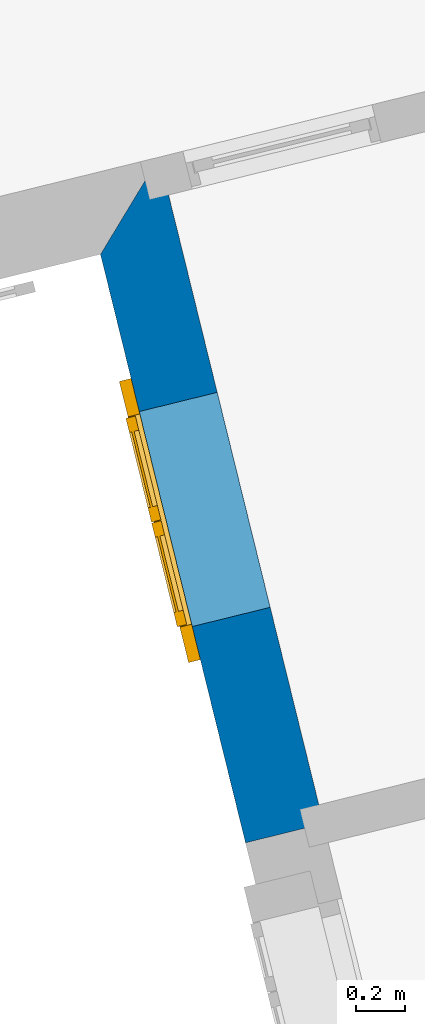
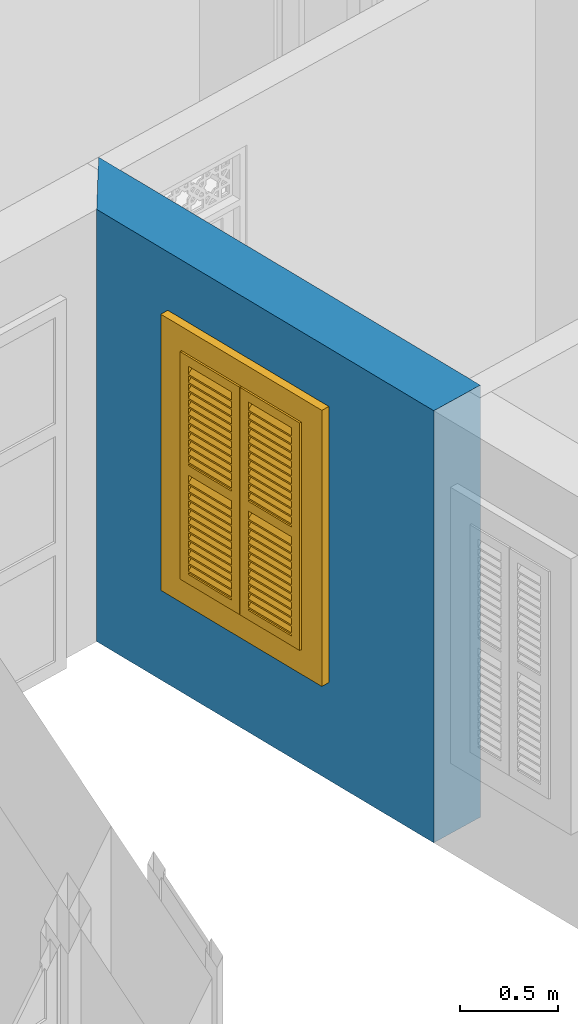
# One storey, part 8 of 12: 1 wall, 1 window, 1 opening.
"""IFC4 building model written with IfcOpenShell, lengths in metres."""

from ifc_helpers import new_model, si_unit, frame, origin, origin_with_axes, place, context, subcontext, project, spatial, polyline, outline, extrude, faceted_brep, source, transform, mapped, material, layer, layer_set, layer_usage, type_object, type_shapes, element, fill, save


model = new_model("IFC4")

# Units and contexts
model_context = context("Model", 3, world=origin_with_axes())
body_context = subcontext(model_context, "Body", "Model", "MODEL_VIEW")
ifc_project = project(units=[si_unit("PLANEANGLEUNIT", "RADIAN"), si_unit("MASSUNIT", "GRAM", prefix="KILO"), si_unit("FORCEUNIT", "NEWTON", prefix="KILO"), si_unit("LENGTHUNIT", "METRE"), si_unit("AREAUNIT", "SQUARE_METRE"), si_unit("VOLUMEUNIT", "CUBIC_METRE")], contexts=[model_context, model_context])

# Site, building, storey
site_placement = place(None, origin_with_axes())
site = spatial("IfcSite", under=ifc_project, at=site_placement, Name="Site plot-1", CompositionType="ELEMENT")
building_placement = place(None, origin_with_axes())
building = spatial("IfcBuilding", under=site, at=building_placement, Name="Building plot-1", CompositionType="ELEMENT")
storey_placement = place(None, origin_with_axes())
storey = spatial("IfcBuildingStorey", under=building, at=storey_placement, Name="plot-1 0", CompositionType="ELEMENT", Elevation=0.0)

# Wall, opening, window
ifc_material = material(Name="Masonry")
ifc_layer = layer(ifc_material, 0.33, ventilated=False)
ifc_layer_set = layer_set([ifc_layer], Name="exterior_0.08_0.25")
ifc_layer_usage = layer_usage(ifc_layer_set, "AXIS2", "POSITIVE", -0.25)
wall_type = type_object("IfcWallType", Name="exterior_0.08_0.25", PredefinedType="SOLIDWALL", material=ifc_layer_set)
wall_placement = place(storey_placement, frame((1.84232512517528, 23.8951878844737, 0.0), z_axis=(0.0, 0.0, 1.0), x_axis=(0.239234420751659, -0.970961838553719, 0.0)))
wall = element("IfcWall", 1, at=wall_placement, inside=storey, type_object=wall_type, material=ifc_layer_usage, Name="exterior", context=body_context, shape_type="SweptSolid", body=[
    extrude(outline(polyline([(-0.0799999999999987, 0.08), (0.250000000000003, -0.250000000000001), (2.74089482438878, -0.25), (2.74089482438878, 0.0800000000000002), (-0.0799999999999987, 0.08)])), origin_with_axes(), (0.0, 0.0, 1.0), 2.7),
])
opening_placement = place(wall_placement, frame((0.915447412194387, 0.0, 0.75)))
opening = element("IfcOpeningElement", 2, at=opening_placement, cuts=wall, Name="My Opening", ObjectType="Opening", context=body_context, shape_type="SweptSolid", body=[
    extrude(outline(polyline([(0.0, -0.27), (0.910000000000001, -0.27), (0.910000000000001, 1.1), (1.11022302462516e-16, 1.1), (0.0, -0.27)])), origin_with_axes(), (0.0, 0.0, 1.0), 1.445),
])
window_type = type_object("IfcWindowType", Name="shuttered_shorter", PartitioningType="DOUBLE_PANEL_HORIZONTAL", PredefinedType="NOTDEFINED")
shared_shape = source(origin(), body_context, "Body", "Brep", [
    faceted_brep([(0.393, 0.0, 0.622), (0.074, 0.0, 0.622), (0.074, 0.0, 0.632), (0.393, 0.0, 0.632), (0.074, -0.04, 0.592), (0.393, -0.04, 0.592), (0.393, -0.04, 0.582), (0.074, -0.04, 0.582), (0.517, 0.0, 0.682), (0.836, 0.0, 0.682), (0.836, 0.0, 0.672), (0.517, 0.0, 0.672), (0.517, -0.04, 0.642), (0.836, -0.04, 0.642), (0.836, -0.04, 0.632), (0.517, -0.04, 0.632), (0.517, 0.0, 0.632), (0.836, 0.0, 0.632), (0.836, 0.0, 0.622), (0.517, 0.0, 0.622), (0.517, -0.04, 0.592), (0.836, -0.04, 0.592), (0.836, -0.04, 0.582), (0.517, -0.04, 0.582), (0.517, 0.0, 0.232), (0.836, 0.0, 0.232), (0.836, 0.0, 0.222), (0.517, 0.0, 0.222), (0.517, -0.04, 0.192), (0.836, -0.04, 0.192), (0.836, -0.04, 0.182), (0.517, -0.04, 0.182), (0.517, 0.0, 0.532), (0.836, 0.0, 0.532), (0.836, 0.0, 0.522), (0.517, 0.0, 0.522), (0.517, -0.04, 0.492), (0.836, -0.04, 0.492), (0.836, -0.04, 0.482), (0.517, -0.04, 0.482), (0.517, 0.0, 0.482), (0.836, 0.0, 0.482), (0.836, 0.0, 0.472), (0.517, 0.0, 0.472), (0.517, -0.04, 0.442), (0.836, -0.04, 0.442), (0.836, -0.04, 0.432), (0.517, -0.04, 0.432), (0.517, 0.0, 0.582), (0.836, 0.0, 0.582), (0.836, 0.0, 0.572), (0.517, 0.0, 0.572), (0.517, -0.04, 0.542), (0.836, -0.04, 0.542), (0.836, -0.04, 0.532), (0.517, -0.04, 0.532), (0.517, 0.0, 0.182), (0.836, 0.0, 0.182), (0.836, 0.0, 0.172), (0.517, 0.0, 0.172), (0.517, -0.04, 0.142), (0.836, -0.04, 0.142), (0.836, -0.04, 0.132), (0.517, -0.04, 0.132), (0.517, 0.0, 0.382), (0.836, 0.0, 0.382), (0.836, 0.0, 0.372), (0.517, 0.0, 0.372), (0.517, -0.04, 0.342), (0.836, -0.04, 0.342), (0.836, -0.04, 0.332), (0.517, -0.04, 0.332), (0.517, 0.0, 0.432), (0.836, 0.0, 0.432), (0.836, 0.0, 0.422), (0.517, 0.0, 0.422), (0.517, -0.04, 0.392), (0.836, -0.04, 0.392), (0.836, -0.04, 0.382), (0.517, -0.04, 0.382), (0.517, 0.0, 0.132), (0.836, 0.0, 0.132), (0.836, 0.0, 0.122), (0.517, 0.0, 0.122), (0.517, -0.04, 0.092), (0.836, -0.04, 0.092), (0.836, -0.04, 0.082), (0.517, -0.04, 0.082), (0.517, 0.0, 0.282), (0.836, 0.0, 0.282), (0.836, 0.0, 0.272), (0.517, 0.0, 0.272), (0.517, -0.04, 0.242), (0.836, -0.04, 0.242), (0.836, -0.04, 0.232), (0.517, -0.04, 0.232), (0.517, 0.0, 0.332), (0.836, 0.0, 0.332), (0.836, 0.0, 0.322), (0.517, 0.0, 0.322), (0.517, -0.04, 0.292), (0.836, -0.04, 0.292), (0.836, -0.04, 0.282), (0.517, -0.04, 0.282), (0.517, 0.0, 1.362667), (0.836, 0.0, 1.362667), (0.836, 0.0, 1.352667), (0.517, 0.0, 1.352667), (0.517, -0.04, 1.322667), (0.836, -0.04, 1.322667), (0.836, -0.04, 1.312667), (0.517, -0.04, 1.312667), (0.517, 0.0, 1.312667), (0.836, 0.0, 1.312667), (0.836, 0.0, 1.302667), (0.517, 0.0, 1.302667), (0.517, -0.04, 1.272667), (0.836, -0.04, 1.272667), (0.836, -0.04, 1.262667), (0.517, -0.04, 1.262667), (0.517, 0.0, 0.912667), (0.836, 0.0, 0.912667), (0.836, 0.0, 0.902667), (0.517, 0.0, 0.902667), (0.517, -0.04, 0.872667), (0.836, -0.04, 0.872667), (0.836, -0.04, 0.862667), (0.517, -0.04, 0.862667), (0.517, 0.0, 1.212667), (0.836, 0.0, 1.212667), (0.836, 0.0, 1.202667), (0.517, 0.0, 1.202667), (0.517, -0.04, 1.172667), (0.836, -0.04, 1.172667), (0.836, -0.04, 1.162667), (0.517, -0.04, 1.162667), (0.517, 0.0, 1.162667), (0.836, 0.0, 1.162667), (0.836, 0.0, 1.152667), (0.517, 0.0, 1.152667), (0.517, -0.04, 1.122667), (0.836, -0.04, 1.122667), (0.836, -0.04, 1.112667), (0.517, -0.04, 1.112667), (0.517, 0.0, 1.262667), (0.836, 0.0, 1.262667), (0.836, 0.0, 1.252667), (0.517, 0.0, 1.252667), (0.517, -0.04, 1.222667), (0.836, -0.04, 1.222667), (0.836, -0.04, 1.212667), (0.517, -0.04, 1.212667), (0.517, 0.0, 0.862667), (0.836, 0.0, 0.862667), (0.836, 0.0, 0.852667), (0.517, 0.0, 0.852667), (0.517, -0.04, 0.822667), (0.836, -0.04, 0.822667), (0.836, -0.04, 0.812667), (0.517, -0.04, 0.812667), (0.517, 0.0, 1.062667), (0.836, 0.0, 1.062667), (0.836, 0.0, 1.052667), (0.517, 0.0, 1.052667), (0.517, -0.04, 1.022667), (0.836, -0.04, 1.022667), (0.836, -0.04, 1.012667), (0.517, -0.04, 1.012667), (0.517, 0.0, 1.112667), (0.836, 0.0, 1.112667), (0.836, 0.0, 1.102667), (0.517, 0.0, 1.102667), (0.517, -0.04, 1.072667), (0.836, -0.04, 1.072667), (0.836, -0.04, 1.062667), (0.517, -0.04, 1.062667), (0.517, 0.0, 0.812667), (0.836, 0.0, 0.812667), (0.836, 0.0, 0.802667), (0.517, 0.0, 0.802667), (0.517, -0.04, 0.772667), (0.836, -0.04, 0.772667), (0.836, -0.04, 0.762667), (0.517, -0.04, 0.762667), (0.517, 0.0, 0.962667), (0.836, 0.0, 0.962667), (0.836, 0.0, 0.952667), (0.517, 0.0, 0.952667), (0.517, -0.04, 0.922667), (0.836, -0.04, 0.922667), (0.836, -0.04, 0.912667), (0.517, -0.04, 0.912667), (0.517, 0.0, 1.012667), (0.836, 0.0, 1.012667), (0.836, 0.0, 1.002667), (0.517, 0.0, 1.002667), (0.517, -0.04, 0.972667), (0.836, -0.04, 0.972667), (0.836, -0.04, 0.962667), (0.517, -0.04, 0.962667), (0.074, 0.0, 0.682), (0.393, 0.0, 0.682), (0.393, 0.0, 0.672), (0.074, 0.0, 0.672), (0.074, -0.04, 0.642), (0.393, -0.04, 0.642), (0.393, -0.04, 0.632), (0.074, -0.04, 0.632), (0.074, 0.0, 0.232), (0.393, 0.0, 0.232), (0.393, 0.0, 0.222), (0.074, 0.0, 0.222), (0.074, -0.04, 0.192), (0.393, -0.04, 0.192), (0.393, -0.04, 0.182), (0.074, -0.04, 0.182), (0.074, 0.0, 0.532), (0.393, 0.0, 0.532), (0.393, 0.0, 0.522), (0.074, 0.0, 0.522), (0.074, -0.04, 0.492), (0.393, -0.04, 0.492), (0.393, -0.04, 0.482), (0.074, -0.04, 0.482), (0.074, 0.0, 0.482), (0.393, 0.0, 0.482), (0.393, 0.0, 0.472), (0.074, 0.0, 0.472), (0.074, -0.04, 0.442), (0.393, -0.04, 0.442), (0.393, -0.04, 0.432), (0.074, -0.04, 0.432), (0.074, 0.0, 0.582), (0.393, 0.0, 0.582), (0.393, 0.0, 0.572), (0.074, 0.0, 0.572), (0.074, -0.04, 0.542), (0.393, -0.04, 0.542), (0.393, -0.04, 0.532), (0.074, -0.04, 0.532), (0.074, 0.0, 0.182), (0.393, 0.0, 0.182), (0.393, 0.0, 0.172), (0.074, 0.0, 0.172), (0.074, -0.04, 0.142), (0.393, -0.04, 0.142), (0.393, -0.04, 0.132), (0.074, -0.04, 0.132), (0.074, 0.0, 0.382), (0.393, 0.0, 0.382), (0.393, 0.0, 0.372), (0.074, 0.0, 0.372), (0.074, -0.04, 0.342), (0.393, -0.04, 0.342), (0.393, -0.04, 0.332), (0.074, -0.04, 0.332), (0.074, 0.0, 0.432), (0.393, 0.0, 0.432), (0.393, 0.0, 0.422), (0.074, 0.0, 0.422), (0.074, -0.04, 0.392), (0.393, -0.04, 0.392), (0.393, -0.04, 0.382), (0.074, -0.04, 0.382), (0.074, 0.0, 0.132), (0.393, 0.0, 0.132), (0.393, 0.0, 0.122), (0.074, 0.0, 0.122), (0.074, -0.04, 0.092), (0.393, -0.04, 0.092), (0.393, -0.04, 0.082), (0.074, -0.04, 0.082), (0.074, 0.0, 0.282), (0.393, 0.0, 0.282), (0.393, 0.0, 0.272), (0.074, 0.0, 0.272), (0.074, -0.04, 0.242), (0.393, -0.04, 0.242), (0.393, -0.04, 0.232), (0.074, -0.04, 0.232), (0.074, 0.0, 0.332), (0.393, 0.0, 0.332), (0.393, 0.0, 0.322), (0.074, 0.0, 0.322), (0.074, -0.04, 0.292), (0.393, -0.04, 0.292), (0.393, -0.04, 0.282), (0.074, -0.04, 0.282), (0.074, 0.0, 1.362667), (0.393, 0.0, 1.362667), (0.393, 0.0, 1.352667), (0.074, 0.0, 1.352667), (0.074, -0.04, 1.322667), (0.393, -0.04, 1.322667), (0.393, -0.04, 1.312667), (0.074, -0.04, 1.312667), (0.074, 0.0, 1.312667), (0.393, 0.0, 1.312667), (0.393, 0.0, 1.302667), (0.074, 0.0, 1.302667), (0.074, -0.04, 1.272667), (0.393, -0.04, 1.272667), (0.393, -0.04, 1.262667), (0.074, -0.04, 1.262667), (0.074, 0.0, 0.912667), (0.393, 0.0, 0.912667), (0.393, 0.0, 0.902667), (0.074, 0.0, 0.902667), (0.074, -0.04, 0.872667), (0.393, -0.04, 0.872667), (0.393, -0.04, 0.862667), (0.074, -0.04, 0.862667), (0.074, 0.0, 1.212667), (0.393, 0.0, 1.212667), (0.393, 0.0, 1.202667), (0.074, 0.0, 1.202667), (0.074, -0.04, 1.172667), (0.393, -0.04, 1.172667), (0.393, -0.04, 1.162667), (0.074, -0.04, 1.162667), (0.074, 0.0, 1.162667), (0.393, 0.0, 1.162667), (0.393, 0.0, 1.152667), (0.074, 0.0, 1.152667), (0.074, -0.04, 1.122667), (0.393, -0.04, 1.122667), (0.393, -0.04, 1.112667), (0.074, -0.04, 1.112667), (0.074, 0.0, 1.262667), (0.393, 0.0, 1.262667), (0.393, 0.0, 1.252667), (0.074, 0.0, 1.252667), (0.074, -0.04, 1.222667), (0.393, -0.04, 1.222667), (0.393, -0.04, 1.212667), (0.074, -0.04, 1.212667), (0.074, 0.0, 0.862667), (0.393, 0.0, 0.862667), (0.393, 0.0, 0.852667), (0.074, 0.0, 0.852667), (0.074, -0.04, 0.822667), (0.393, -0.04, 0.822667), (0.393, -0.04, 0.812667), (0.074, -0.04, 0.812667), (0.074, 0.0, 1.062667), (0.393, 0.0, 1.062667), (0.393, 0.0, 1.052667), (0.074, 0.0, 1.052667), (0.074, -0.04, 1.022667), (0.393, -0.04, 1.022667), (0.393, -0.04, 1.012667), (0.074, -0.04, 1.012667), (0.074, 0.0, 1.112667), (0.393, 0.0, 1.112667), (0.393, 0.0, 1.102667), (0.074, 0.0, 1.102667), (0.074, -0.04, 1.072667), (0.393, -0.04, 1.072667), (0.393, -0.04, 1.062667), (0.074, -0.04, 1.062667), (0.074, 0.0, 0.812667), (0.393, 0.0, 0.812667), (0.393, 0.0, 0.802667), (0.074, 0.0, 0.802667), (0.074, -0.04, 0.772667), (0.393, -0.04, 0.772667), (0.393, -0.04, 0.762667), (0.074, -0.04, 0.762667), (0.074, 0.0, 0.962667), (0.393, 0.0, 0.962667), (0.393, 0.0, 0.952667), (0.074, 0.0, 0.952667), (0.074, -0.04, 0.922667), (0.393, -0.04, 0.922667), (0.393, -0.04, 0.912667), (0.074, -0.04, 0.912667), (0.074, 0.0, 1.012667), (0.393, 0.0, 1.012667), (0.393, 0.0, 1.002667), (0.074, 0.0, 1.002667), (0.074, -0.04, 0.972667), (0.393, -0.04, 0.972667), (0.393, -0.04, 0.962667), (0.074, -0.04, 0.962667), (0.517, -0.04, 0.072), (0.457, -0.04, 0.012), (0.896, -0.04, 0.012), (0.836, -0.04, 0.072), (0.457, -0.04, 0.692667), (0.517, -0.04, 0.692667), (0.457, 0.0, 0.012), (0.896, 0.0, 0.012), (0.836, -0.04, 0.692667), (0.896, -0.04, 0.692667), (0.836, 0.0, 0.072), (0.517, 0.0, 0.072), (0.457, 0.0, 0.692667), (0.517, 0.0, 0.692667), (0.517, -0.04, 0.752666), (0.457, -0.04, 0.752666), (0.896, 0.0, 0.692667), (0.836, 0.0, 0.692667), (0.836, -0.04, 0.752666), (0.896, -0.04, 0.752666), (0.457, 0.0, 0.752666), (0.457, -0.04, 1.433333), (0.517, -0.04, 1.373333), (0.896, 0.0, 0.752666), (0.836, -0.04, 1.373333), (0.896, -0.04, 1.433333), (0.457, 0.0, 1.433333), (0.517, 0.0, 0.752666), (0.836, 0.0, 0.752666), (0.517, 0.0, 1.373333), (0.896, 0.0, 1.433333), (0.836, 0.0, 1.373333), (0.074, -0.04, 0.072), (0.014, -0.04, 0.012), (0.453, -0.04, 0.012), (0.393, -0.04, 0.072), (0.014, -0.04, 0.692667), (0.074, -0.04, 0.692667), (0.014, 0.0, 0.012), (0.453, 0.0, 0.012), (0.393, -0.04, 0.692667), (0.453, -0.04, 0.692667), (0.393, 0.0, 0.072), (0.074, 0.0, 0.072), (0.014, 0.0, 0.692667), (0.074, 0.0, 0.692667), (0.074, -0.04, 0.752666), (0.014, -0.04, 0.752666), (0.453, 0.0, 0.692667), (0.393, 0.0, 0.692667), (0.393, -0.04, 0.752666), (0.453, -0.04, 0.752666), (0.014, 0.0, 0.752666), (0.014, -0.04, 1.433333), (0.074, -0.04, 1.373333), (0.453, 0.0, 0.752666), (0.393, -0.04, 1.373333), (0.453, -0.04, 1.433333), (0.014, 0.0, 1.433333), (0.074, 0.0, 0.752666), (0.393, 0.0, 0.752666), (0.074, 0.0, 1.373333), (0.453, 0.0, 1.433333), (0.393, 0.0, 1.373333), (0.0, 0.33, 1.445), (0.91, 0.33, 1.445), (0.85, 0.33, 1.385), (0.06, 0.33, 1.385), (0.91, 0.25, 1.445), (0.0, 0.25, 1.445), (0.91, 0.25, 1.445), (0.85, 0.33, 0.06), (0.91, 0.33, 0.0), (0.85, 0.25, 1.385), (0.06, 0.25, 1.385), (0.0, 0.33, 0.0), (0.06, 0.33, 0.06), (0.0, 0.25, 0.0), (0.91, 0.25, 0.0), (0.85, 0.25, 0.06), (0.06, 0.25, 0.06), (1.05, 0.25, 1.585), (-0.14, 0.25, 1.585), (-0.14, -0.03, 1.585), (1.05, -0.03, 1.585), (0.9, -0.03, 1.435), (0.01, -0.03, 1.435), (0.01, 0.25, 1.435), (0.9, 0.25, 1.435), (0.9, 0.25, 0.01), (0.9, -0.03, 0.01), (1.05, -0.03, -0.14), (1.05, 0.25, -0.14), (0.01, -0.03, 0.01), (0.01, 0.25, 0.01), (-0.14, -0.03, -0.14), (-0.14, 0.25, -0.14)], [[[0, 1, 2, 3]], [[4, 5, 3, 2]], [[5, 6, 0, 3]], [[1, 0, 6, 7]], [[2, 1, 7, 4]], [[5, 4, 7, 6]], [[8, 9, 10, 11]], [[12, 13, 9, 8]], [[13, 14, 10, 9]], [[14, 15, 11, 10]], [[15, 12, 8, 11]], [[13, 12, 15, 14]], [[16, 17, 18, 19]], [[20, 21, 17, 16]], [[21, 22, 18, 17]], [[22, 23, 19, 18]], [[23, 20, 16, 19]], [[21, 20, 23, 22]], [[24, 25, 26, 27]], [[28, 29, 25, 24]], [[29, 30, 26, 25]], [[30, 31, 27, 26]], [[31, 28, 24, 27]], [[29, 28, 31, 30]], [[32, 33, 34, 35]], [[36, 37, 33, 32]], [[37, 38, 34, 33]], [[38, 39, 35, 34]], [[39, 36, 32, 35]], [[37, 36, 39, 38]], [[40, 41, 42, 43]], [[44, 45, 41, 40]], [[45, 46, 42, 41]], [[46, 47, 43, 42]], [[47, 44, 40, 43]], [[45, 44, 47, 46]], [[48, 49, 50, 51]], [[52, 53, 49, 48]], [[53, 54, 50, 49]], [[54, 55, 51, 50]], [[55, 52, 48, 51]], [[53, 52, 55, 54]], [[56, 57, 58, 59]], [[60, 61, 57, 56]], [[61, 62, 58, 57]], [[62, 63, 59, 58]], [[63, 60, 56, 59]], [[61, 60, 63, 62]], [[64, 65, 66, 67]], [[68, 69, 65, 64]], [[69, 70, 66, 65]], [[70, 71, 67, 66]], [[71, 68, 64, 67]], [[69, 68, 71, 70]], [[72, 73, 74, 75]], [[76, 77, 73, 72]], [[77, 78, 74, 73]], [[78, 79, 75, 74]], [[79, 76, 72, 75]], [[77, 76, 79, 78]], [[80, 81, 82, 83]], [[84, 85, 81, 80]], [[85, 86, 82, 81]], [[86, 87, 83, 82]], [[87, 84, 80, 83]], [[85, 84, 87, 86]], [[88, 89, 90, 91]], [[92, 93, 89, 88]], [[93, 94, 90, 89]], [[94, 95, 91, 90]], [[95, 92, 88, 91]], [[93, 92, 95, 94]], [[96, 97, 98, 99]], [[100, 101, 97, 96]], [[101, 102, 98, 97]], [[102, 103, 99, 98]], [[103, 100, 96, 99]], [[101, 100, 103, 102]], [[104, 105, 106, 107]], [[108, 109, 105, 104]], [[109, 110, 106, 105]], [[110, 111, 107, 106]], [[111, 108, 104, 107]], [[109, 108, 111, 110]], [[112, 113, 114, 115]], [[116, 117, 113, 112]], [[117, 118, 114, 113]], [[118, 119, 115, 114]], [[119, 116, 112, 115]], [[117, 116, 119, 118]], [[120, 121, 122, 123]], [[124, 125, 121, 120]], [[125, 126, 122, 121]], [[126, 127, 123, 122]], [[127, 124, 120, 123]], [[125, 124, 127, 126]], [[128, 129, 130, 131]], [[132, 133, 129, 128]], [[133, 134, 130, 129]], [[134, 135, 131, 130]], [[135, 132, 128, 131]], [[133, 132, 135, 134]], [[136, 137, 138, 139]], [[140, 141, 137, 136]], [[141, 142, 138, 137]], [[142, 143, 139, 138]], [[139, 143, 140, 136]], [[141, 140, 143, 142]], [[144, 145, 146, 147]], [[148, 149, 145, 144]], [[149, 150, 146, 145]], [[150, 151, 147, 146]], [[151, 148, 144, 147]], [[149, 148, 151, 150]], [[152, 153, 154, 155]], [[156, 157, 153, 152]], [[157, 158, 154, 153]], [[158, 159, 155, 154]], [[159, 156, 152, 155]], [[157, 156, 159, 158]], [[160, 161, 162, 163]], [[164, 165, 161, 160]], [[165, 166, 162, 161]], [[166, 167, 163, 162]], [[167, 164, 160, 163]], [[165, 164, 167, 166]], [[168, 169, 170, 171]], [[172, 173, 169, 168]], [[173, 174, 170, 169]], [[174, 175, 171, 170]], [[175, 172, 168, 171]], [[173, 172, 175, 174]], [[176, 177, 178, 179]], [[180, 181, 177, 176]], [[181, 182, 178, 177]], [[182, 183, 179, 178]], [[183, 180, 176, 179]], [[181, 180, 183, 182]], [[184, 185, 186, 187]], [[188, 189, 185, 184]], [[189, 190, 186, 185]], [[190, 191, 187, 186]], [[191, 188, 184, 187]], [[189, 188, 191, 190]], [[192, 193, 194, 195]], [[196, 197, 193, 192]], [[197, 198, 194, 193]], [[198, 199, 195, 194]], [[199, 196, 192, 195]], [[197, 196, 199, 198]], [[200, 201, 202, 203]], [[204, 205, 201, 200]], [[205, 206, 202, 201]], [[206, 207, 203, 202]], [[207, 204, 200, 203]], [[205, 204, 207, 206]], [[208, 209, 210, 211]], [[212, 213, 209, 208]], [[213, 214, 210, 209]], [[214, 215, 211, 210]], [[215, 212, 208, 211]], [[213, 212, 215, 214]], [[216, 217, 218, 219]], [[220, 221, 217, 216]], [[221, 222, 218, 217]], [[222, 223, 219, 218]], [[223, 220, 216, 219]], [[221, 220, 223, 222]], [[224, 225, 226, 227]], [[228, 229, 225, 224]], [[229, 230, 226, 225]], [[230, 231, 227, 226]], [[231, 228, 224, 227]], [[229, 228, 231, 230]], [[232, 233, 234, 235]], [[236, 237, 233, 232]], [[237, 238, 234, 233]], [[238, 239, 235, 234]], [[239, 236, 232, 235]], [[237, 236, 239, 238]], [[240, 241, 242, 243]], [[244, 245, 241, 240]], [[245, 246, 242, 241]], [[246, 247, 243, 242]], [[247, 244, 240, 243]], [[245, 244, 247, 246]], [[248, 249, 250, 251]], [[252, 253, 249, 248]], [[253, 254, 250, 249]], [[254, 255, 251, 250]], [[255, 252, 248, 251]], [[253, 252, 255, 254]], [[256, 257, 258, 259]], [[260, 261, 257, 256]], [[261, 262, 258, 257]], [[262, 263, 259, 258]], [[263, 260, 256, 259]], [[261, 260, 263, 262]], [[264, 265, 266, 267]], [[268, 269, 265, 264]], [[269, 270, 266, 265]], [[270, 271, 267, 266]], [[271, 268, 264, 267]], [[269, 268, 271, 270]], [[272, 273, 274, 275]], [[276, 277, 273, 272]], [[277, 278, 274, 273]], [[278, 279, 275, 274]], [[279, 276, 272, 275]], [[277, 276, 279, 278]], [[280, 281, 282, 283]], [[284, 285, 281, 280]], [[285, 286, 282, 281]], [[286, 287, 283, 282]], [[287, 284, 280, 283]], [[285, 284, 287, 286]], [[288, 289, 290, 291]], [[292, 293, 289, 288]], [[293, 294, 290, 289]], [[294, 295, 291, 290]], [[295, 292, 288, 291]], [[293, 292, 295, 294]], [[296, 297, 298, 299]], [[300, 301, 297, 296]], [[301, 302, 298, 297]], [[302, 303, 299, 298]], [[303, 300, 296, 299]], [[301, 300, 303, 302]], [[304, 305, 306, 307]], [[308, 309, 305, 304]], [[309, 310, 306, 305]], [[310, 311, 307, 306]], [[311, 308, 304, 307]], [[309, 308, 311, 310]], [[312, 313, 314, 315]], [[316, 317, 313, 312]], [[317, 318, 314, 313]], [[318, 319, 315, 314]], [[319, 316, 312, 315]], [[317, 316, 319, 318]], [[320, 321, 322, 323]], [[324, 325, 321, 320]], [[325, 326, 322, 321]], [[326, 327, 323, 322]], [[327, 324, 320, 323]], [[325, 324, 327, 326]], [[328, 329, 330, 331]], [[332, 333, 329, 328]], [[333, 334, 330, 329]], [[334, 335, 331, 330]], [[335, 332, 328, 331]], [[333, 332, 335, 334]], [[336, 337, 338, 339]], [[340, 341, 337, 336]], [[341, 342, 338, 337]], [[342, 343, 339, 338]], [[343, 340, 336, 339]], [[341, 340, 343, 342]], [[344, 345, 346, 347]], [[348, 349, 345, 344]], [[349, 350, 346, 345]], [[350, 351, 347, 346]], [[351, 348, 344, 347]], [[349, 348, 351, 350]], [[352, 353, 354, 355]], [[356, 357, 353, 352]], [[357, 358, 354, 353]], [[358, 359, 355, 354]], [[359, 356, 352, 355]], [[357, 356, 359, 358]], [[360, 361, 362, 363]], [[364, 365, 361, 360]], [[365, 366, 362, 361]], [[366, 367, 363, 362]], [[367, 364, 360, 363]], [[365, 364, 367, 366]], [[368, 369, 370, 371]], [[372, 373, 369, 368]], [[373, 374, 370, 369]], [[374, 375, 371, 370]], [[375, 372, 368, 371]], [[373, 372, 375, 374]], [[376, 377, 378, 379]], [[380, 381, 377, 376]], [[381, 382, 378, 377]], [[382, 383, 379, 378]], [[383, 380, 376, 379]], [[381, 380, 383, 382]], [[384, 385, 386, 387]], [[388, 385, 384, 389]], [[390, 391, 386, 385]], [[392, 387, 386, 393]], [[384, 387, 394, 395]], [[390, 385, 388, 396]], [[389, 384, 395, 397]], [[389, 398, 399, 388]], [[390, 395, 394, 391]], [[400, 393, 386, 391]], [[387, 392, 401, 394]], [[402, 392, 393, 403]], [[396, 388, 399, 404]], [[390, 396, 397, 395]], [[392, 389, 397, 401]], [[398, 389, 392, 402]], [[405, 399, 398, 406]], [[394, 401, 400, 391]], [[407, 403, 393, 400]], [[408, 402, 403, 409]], [[404, 399, 405, 410]], [[411, 397, 396, 404]], [[397, 411, 412, 401]], [[398, 402, 412, 411]], [[406, 398, 411, 413]], [[405, 406, 408, 409]], [[401, 412, 407, 400]], [[414, 409, 403, 407]], [[402, 408, 415, 412]], [[405, 409, 414, 410]], [[404, 410, 413, 411]], [[408, 406, 413, 415]], [[412, 415, 414, 407]], [[413, 410, 414, 415]], [[416, 417, 418, 419]], [[420, 417, 416, 421]], [[422, 423, 418, 417]], [[424, 419, 418, 425]], [[416, 419, 426, 427]], [[422, 417, 420, 428]], [[421, 416, 427, 429]], [[421, 430, 431, 420]], [[422, 427, 426, 423]], [[432, 425, 418, 423]], [[419, 424, 433, 426]], [[434, 424, 425, 435]], [[428, 420, 431, 436]], [[422, 428, 429, 427]], [[424, 421, 429, 433]], [[430, 421, 424, 434]], [[437, 431, 430, 438]], [[426, 433, 432, 423]], [[439, 435, 425, 432]], [[440, 434, 435, 441]], [[436, 431, 437, 442]], [[443, 429, 428, 436]], [[429, 443, 444, 433]], [[430, 434, 444, 443]], [[438, 430, 443, 445]], [[437, 438, 440, 441]], [[433, 444, 439, 432]], [[446, 441, 435, 439]], [[434, 440, 447, 444]], [[437, 441, 446, 442]], [[436, 442, 445, 443]], [[440, 438, 445, 447]], [[444, 447, 446, 439]], [[445, 442, 446, 447]], [[448, 449, 450, 451]], [[452, 449, 448]], [[448, 453, 454]], [[448, 454, 452]], [[455, 450, 449, 456]], [[451, 450, 457, 458]], [[459, 448, 451, 460]], [[448, 459, 461, 453]], [[454, 453, 458, 457]], [[462, 452, 454]], [[454, 457, 463]], [[454, 463, 462]], [[456, 449, 452, 462]], [[450, 455, 463, 457]], [[456, 459, 460, 455]], [[460, 451, 458, 464]], [[459, 456, 462, 461]], [[464, 458, 453, 461]], [[461, 462, 463, 464]], [[455, 460, 464, 463]], [[465, 466, 467, 468]], [[469, 470, 471, 472]], [[473, 474, 469, 472]], [[465, 468, 475, 476]], [[470, 477, 478, 471]], [[474, 473, 478, 477]], [[474, 477, 479, 475]], [[470, 467, 479, 477]], [[470, 469, 468, 467]], [[474, 475, 468, 469]], [[471, 478, 480, 466]], [[473, 472, 465, 476]], [[473, 476, 480, 478]], [[466, 465, 472, 471]], [[480, 476, 475, 479]], [[480, 479, 467, 466]]]),
])
type_shapes(window_type, [shared_shape])
window_placement = place(storey_placement, frame((1.79917196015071, 22.9417300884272, 0.75), z_axis=(0.0, 0.0, 1.0), x_axis=(0.21770332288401, -0.883575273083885, 0.0)))
window = element("IfcWindow", 3, at=window_placement, inside=storey, type_object=window_type, Name="bedroom sahn window", OverallHeight=1.445, OverallWidth=0.91, context=body_context, shape_type="MappedRepresentation", body=[
    mapped(shared_shape, transform((0.0, 0.0, 0.0), scale=1.0)),
])
fill(opening, window)

save(model, "model.ifc")
